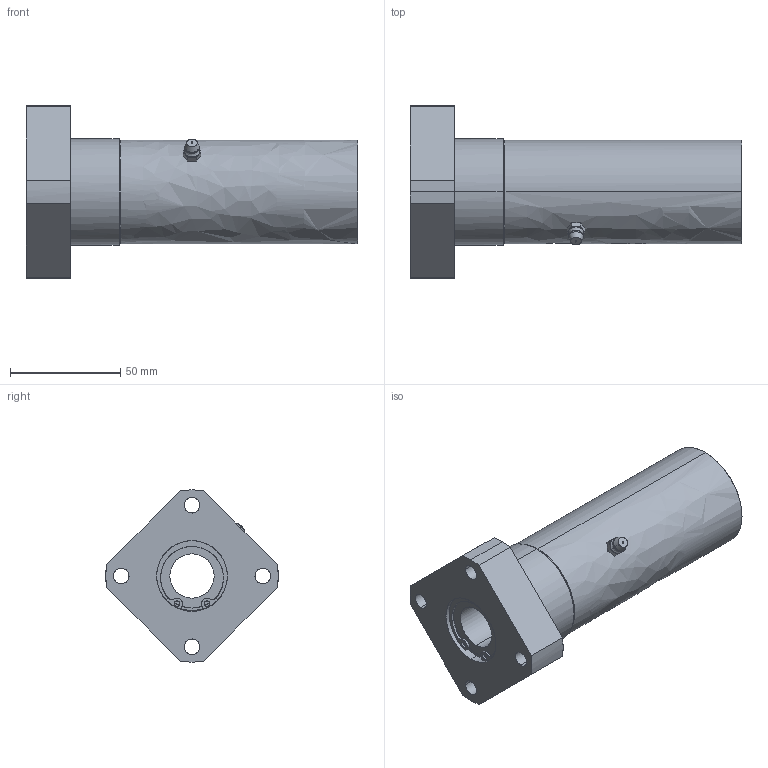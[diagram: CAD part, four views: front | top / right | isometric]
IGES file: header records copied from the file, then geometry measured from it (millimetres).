
Global section: file name: No Iges File Name specified; native system: AutoDesk Inventor R10; preprocessor: AutoDesk Inventor Iges Exporter R10; author: No Author specified; organization: No Organization specified; date: 20101214.140600; units: millimetre
Bounding box: 150 x 77.99 x 78 mm (x, y, z)
Surface area: 46443.9 mm2 (no closed solid volume)
Topology: 0 solids, 0 shells, 159 faces, 1089 edges, 1087 vertices
Faces by surface type: bspline 159
